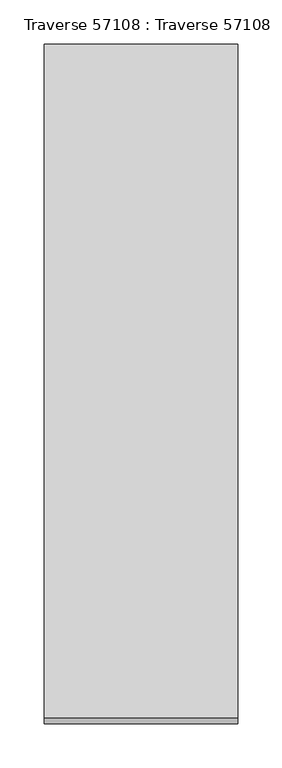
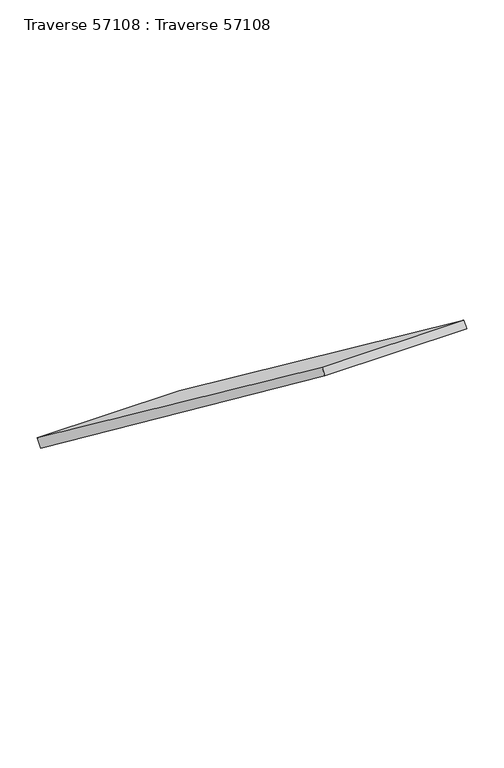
"""IFC4 building model written with IfcOpenShell, lengths in millimetres: beam geometry, Traverse 57108 : Traverse 57108."""

from ifc_helpers import new_model, si_unit, frame, origin, place, context, project, spatial, polyline, outline, extrude, source, transform, mapped, element, save


def traverse_57108_traverse_57108_6f135cb4(model_context):
    return source(origin(), model_context, "Body", "SweptSolid", [
        extrude(outline(polyline([(-749.5810652, 6838.4716659), (-1513.0857801, 7420.6361605), (-1505.886575, 7430.14), (-740.55, 6850.3937869), (-749.5810652, 6838.4716659)])), frame((-110.0000001, 0.0, 0.0), z_axis=(1.0, 0.0, 0.0), x_axis=(0.0, 1.0, 0.0)), (0.0, 0.0, 1.0), 220.0),
    ])


if __name__ == "__main__":
    model = new_model("IFC4")
    model_context = context("Model", 3, world=origin())
    ifc_project = project(units=[si_unit("LENGTHUNIT", "METRE", prefix="MILLI")], contexts=[model_context])
    site = spatial("IfcSite", under=ifc_project)
    building = spatial("IfcBuilding", under=site)
    placement = place(None, origin())
    traverse_57108_traverse_57108_shape = traverse_57108_traverse_57108_6f135cb4(model_context)
    element("IfcBeam", 1, ObjectType="Traverse 57108 : Traverse 57108", at=placement, inside=building, context=model_context, shape_type="MappedRepresentation", body=[
        mapped(traverse_57108_traverse_57108_shape, transform((0.0, 0.0, 0.0), x_axis=(1.0, 0.0, 0.0), y_axis=(0.0, 1.0, 0.0), z_axis=(0.0, 0.0, 1.0))),
    ])
    save(model, "model.ifc")
